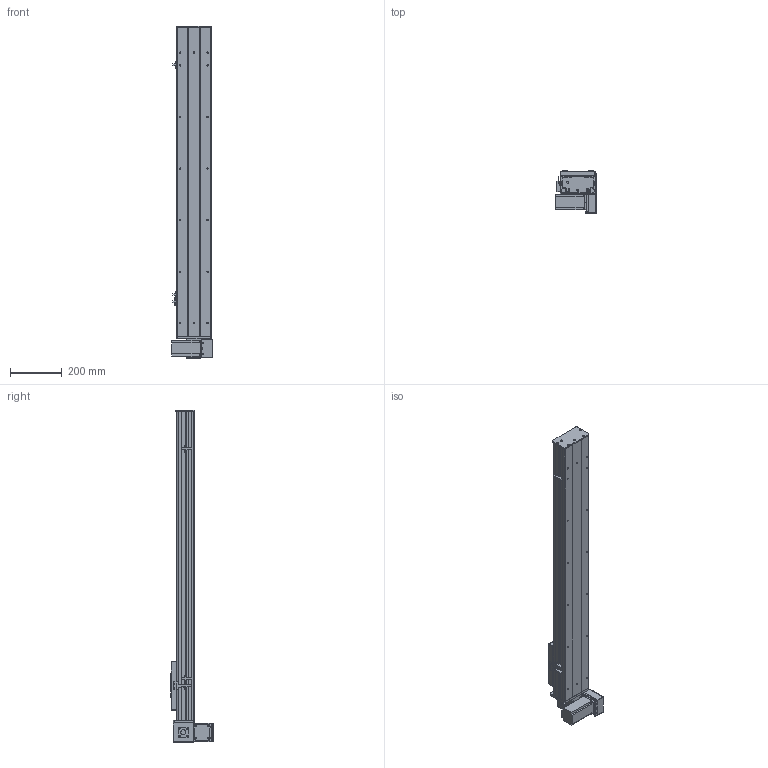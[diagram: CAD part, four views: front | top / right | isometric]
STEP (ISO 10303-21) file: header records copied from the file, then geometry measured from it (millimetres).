
FILE_DESCRIPTION (( 'STEP AP203' ), '1' );
FILE_NAME ('Y135CB-D90-S900-BM-P400W.STEP', '2020-02-19T01:17:03', ( '微软用户' ), ( '微软中国' ), 'SwSTEP 2.0', 'SolidWorks 2017', '' );
FILE_SCHEMA (( 'CONFIG_CONTROL_DESIGN' ));
Length unit declared in the file: millimetre
Products named in the file (18): Y135CB-D90-S900-BM-P400W; 135CB--詩湍-CE; 135CB---遴掛极.-; Y100-135俋离換覜ん--; 35CB---喘謫眊楊擘啣; Y135C-陔俋离換覜結え-; 0B-埴倛裔啣; 5C--俋欶; 0B-源倛裔啣; C-雄赽釱--; 0B-萇儂楊擘啣; Y10B--々湍喘謫眊--666; san松下电机400不带刹车----; 00B-俋欶BM--; 5CB --掛极耜裔啣-; Y10B-耜蚾蟀諉啣----; C-詩湍揤踡え-陔; Y135CB-耜裔
Assembly tree (21 placements, depth 2):
  Y135CB-D90-S900-BM-P400W
    Y135CB-耜裔
    135CB---遴掛极.-
    35CB---喘謫眊楊擘啣
    0B-埴倛裔啣
    0B-源倛裔啣
    0B-萇儂楊擘啣
    san松下电机400不带刹车----
    5CB --掛极耜裔啣-  x2
    C-詩湍揤踡え-陔  x2
    135CB--詩湍-CE
    Y100-135俋离換覜ん--  x3
    Y135C-陔俋离換覜結え-
    5C--俋欶
    C-雄赽釱--
    Y10B--々湍喘謫眊--666
    00B-俋欶BM--
    Y10B-耜蚾蟀諉啣----
Bounding box: 157 x 163.3 x 1288 mm (x, y, z)
Volume: 4126647.7 mm3; surface area: 1612019.6 mm2
Topology: 21 solids, 21 shells, 945 faces, 2527 edges, 1674 vertices
Faces by surface type: cylinder 473, plane 456, cone 16
Entity records: 29349 total; most frequent: DIRECTION 4875, CARTESIAN_POINT 4812, ORIENTED_EDGE 4530, EDGE_CURVE 2265, AXIS2_PLACEMENT_3D 1777, VERTEX_POINT 1502, LINE 1321, VECTOR 1321
